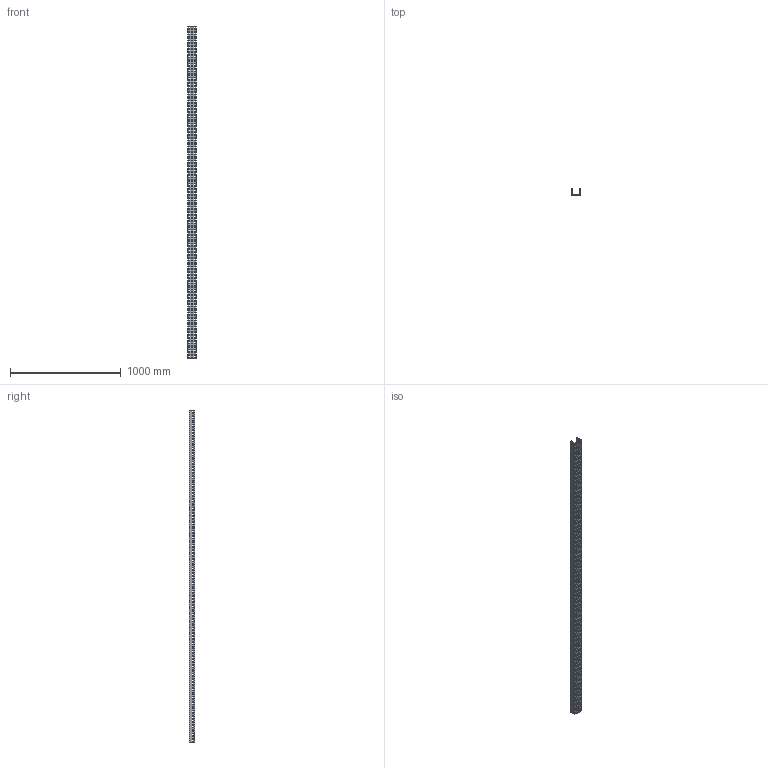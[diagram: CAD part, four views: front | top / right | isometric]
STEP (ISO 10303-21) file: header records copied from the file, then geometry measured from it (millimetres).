
FILE_DESCRIPTION (( 'STEP AP214' ), '1' );
FILE_NAME ('01B3B075.step', '2025-02-21T10:09:29', ( '' ), ( '' ), 'SwSTEP 2.0', 'SolidWorks 2023', '' );
FILE_SCHEMA (( 'AUTOMOTIVE_DESIGN' ));
Length unit declared in the file: millimetre
Products named in the file (1): 01B3B075
Bounding box: 79 x 52 x 3000 mm (x, y, z)
Volume: 1627500 mm3; surface area: 1032872 mm2
Topology: 1 solids, 1 shells, 1450 faces, 4344 edges, 2896 vertices
Faces by surface type: plane 1450
Entity records: 49271 total; most frequent: CARTESIAN_POINT 8691, ORIENTED_EDGE 8688, DIRECTION 7246, EDGE_CURVE 4344, LINE 4344, VECTOR 4344, VERTEX_POINT 2896, EDGE_LOOP 2170
